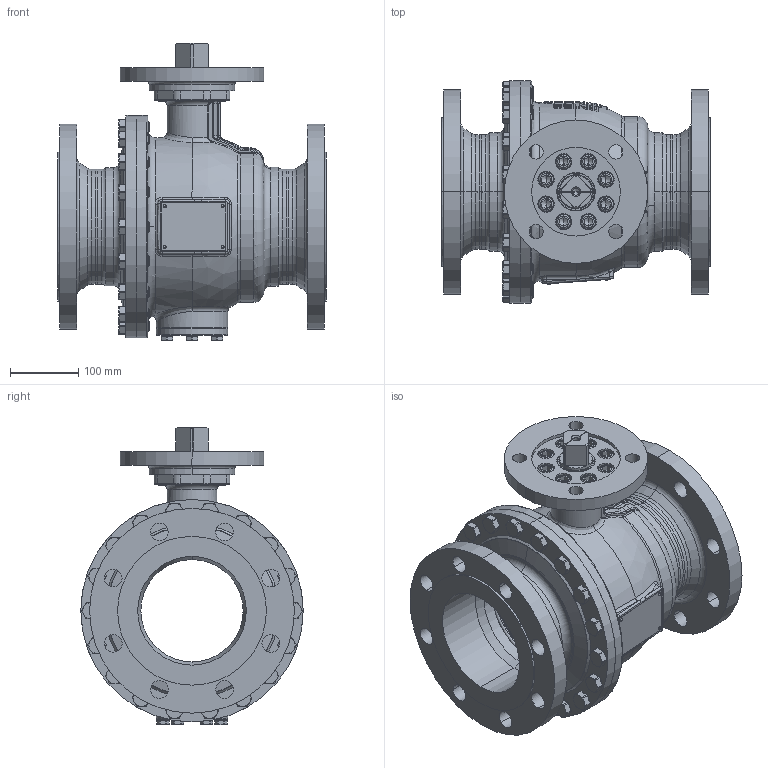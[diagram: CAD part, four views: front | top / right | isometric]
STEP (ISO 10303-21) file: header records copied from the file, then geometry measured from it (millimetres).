
FILE_DESCRIPTION((''),'2;1');
FILE_NAME('KHI-F_150_PN025-F16-4_SW0001','2026-02-05T11:44:23',('fischerkl'),('KLINGER'),'CREO PARAMETRIC BY PTC INC, 2023014','CREO PARAMETRIC BY PTC INC, 2023014','');
FILE_SCHEMA(('CONFIG_CONTROL_DESIGN'));
Products named in the file (1): KHI-F_150_PN025-F16-4_SW0001
Bounding box: 394 x 326 x 436.2 mm (x, y, z)
Volume: 8777479.6 mm3; surface area: 1610886.3 mm2
Topology: 1 solids, 4 shells, 3722 faces, 9522 edges, 5940 vertices
Faces by surface type: plane 2285, cylinder 670, cone 366, torus 260, bspline 113, sphere 28
Entity records: 144220 total; most frequent: CARTESIAN_POINT 56291, ORIENTED_EDGE 18992, DIRECTION 17372, EDGE_CURVE 9496, AXIS2_PLACEMENT_3D 6126, VERTEX_POINT 5940, VECTOR 5120, LINE 5120
